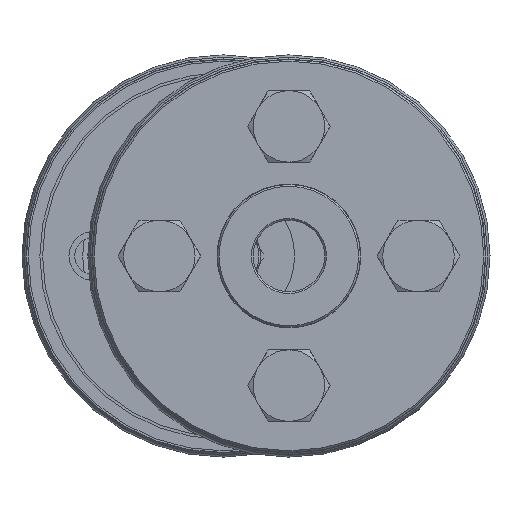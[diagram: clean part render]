
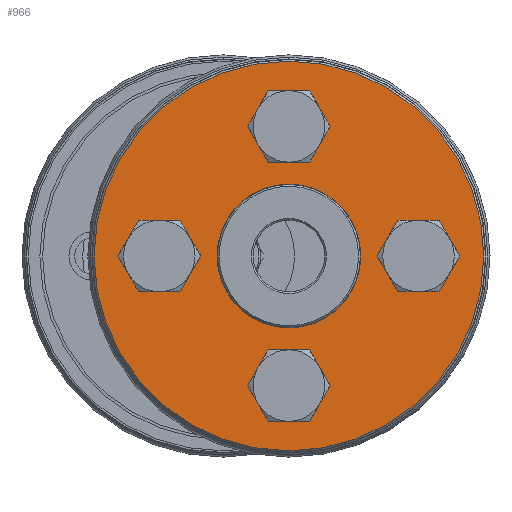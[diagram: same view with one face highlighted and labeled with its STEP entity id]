
A CAD part, left-side view. The second image highlights one B-rep face of the part: STEP entity #966.
In plain terms, the highlighted planar face has unit normal (-1, 0, 0).
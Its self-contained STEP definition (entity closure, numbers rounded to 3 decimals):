
#966 = ADVANCED_FACE( 'NONE', ( #1482, #1483, #1484, #1485, #1486, #1487 ), #1488, .F. );
#1482 = FACE_OUTER_BOUND( '', #1749, .T. );
#1483 = FACE_BOUND( '', #1750, .T. );
#1484 = FACE_BOUND( '', #1751, .T. );
#1485 = FACE_BOUND( '', #1752, .T. );
#1486 = FACE_BOUND( '', #1753, .T. );
#1487 = FACE_BOUND( '', #1754, .T. );
#1488 = PLANE( '', #1755 );
#1749 = EDGE_LOOP( '', ( #2200 ) );
#1750 = EDGE_LOOP( '', ( #2201 ) );
#1751 = EDGE_LOOP( '', ( #2202 ) );
#1752 = EDGE_LOOP( '', ( #2203 ) );
#1753 = EDGE_LOOP( '', ( #2204 ) );
#1754 = EDGE_LOOP( '', ( #2205 ) );
#1755 = AXIS2_PLACEMENT_3D( '', #2206, #2207, #2208 );
#2200 = ORIENTED_EDGE( '', *, *, #2509, .T. );
#2201 = ORIENTED_EDGE( '', *, *, #2510, .T. );
#2202 = ORIENTED_EDGE( '', *, *, #2511, .T. );
#2203 = ORIENTED_EDGE( '', *, *, #2508, .T. );
#2204 = ORIENTED_EDGE( '', *, *, #2512, .T. );
#2205 = ORIENTED_EDGE( '', *, *, #2513, .F. );
#2206 = CARTESIAN_POINT( '', ( 0., 8., 0. ) );
#2207 = DIRECTION( '', ( 1., 0., 0. ) );
#2208 = DIRECTION( '', ( 0., 1., 0. ) );
#2508 = EDGE_CURVE( 'NONE', #2823, #2823, #2824, .T. );
#2509 = EDGE_CURVE( 'NONE', #2825, #2825, #2826, .T. );
#2510 = EDGE_CURVE( 'NONE', #2827, #2827, #2828, .T. );
#2511 = EDGE_CURVE( 'NONE', #2829, #2829, #2830, .T. );
#2512 = EDGE_CURVE( 'NONE', #2831, #2831, #2832, .T. );
#2513 = EDGE_CURVE( 'NONE', #2833, #2833, #2834, .T. );
#2823 = VERTEX_POINT( '', #2993 );
#2824 = CIRCLE( '', #2994, 2.75 );
#2825 = VERTEX_POINT( '', #2995 );
#2826 = CIRCLE( '', #2996, 21.8 );
#2827 = VERTEX_POINT( '', #2997 );
#2828 = CIRCLE( '', #2998, 2.75 );
#2829 = VERTEX_POINT( '', #2999 );
#2830 = CIRCLE( '', #3000, 2.75 );
#2831 = VERTEX_POINT( '', #3001 );
#2832 = CIRCLE( '', #3002, 2.75 );
#2833 = VERTEX_POINT( '', #3003 );
#2834 = CIRCLE( '', #3004, 8. );
#2993 = CARTESIAN_POINT( '', ( 0., 0., -17.25 ) );
#2994 = AXIS2_PLACEMENT_3D( '', #3123, #3124, #3125 );
#2995 = CARTESIAN_POINT( '', ( 0., 0., -21.8 ) );
#2996 = AXIS2_PLACEMENT_3D( '', #3126, #3127, #3128 );
#2997 = CARTESIAN_POINT( '', ( 0., 0., 11.75 ) );
#2998 = AXIS2_PLACEMENT_3D( '', #3129, #3130, #3131 );
#2999 = CARTESIAN_POINT( '', ( 0., -14.5, -2.75 ) );
#3000 = AXIS2_PLACEMENT_3D( '', #3132, #3133, #3134 );
#3001 = CARTESIAN_POINT( '', ( 0., 14.5, -2.75 ) );
#3002 = AXIS2_PLACEMENT_3D( '', #3135, #3136, #3137 );
#3003 = CARTESIAN_POINT( '', ( 0., 0., 8. ) );
#3004 = AXIS2_PLACEMENT_3D( '', #3138, #3139, #3140 );
#3123 = CARTESIAN_POINT( '', ( 0., 0., -14.5 ) );
#3124 = DIRECTION( '', ( 1., 0., 0. ) );
#3125 = DIRECTION( '', ( 0., 0., -1. ) );
#3126 = CARTESIAN_POINT( '', ( 0., 0., 0. ) );
#3127 = DIRECTION( '', ( -1., 0., 0. ) );
#3128 = DIRECTION( '', ( 0., 0., -1. ) );
#3129 = CARTESIAN_POINT( '', ( 0., 0., 14.5 ) );
#3130 = DIRECTION( '', ( 1., 0., 0. ) );
#3131 = DIRECTION( '', ( 0., 0., -1. ) );
#3132 = CARTESIAN_POINT( '', ( 0., -14.5, 0. ) );
#3133 = DIRECTION( '', ( 1., 0., 0. ) );
#3134 = DIRECTION( '', ( 0., 0., -1. ) );
#3135 = CARTESIAN_POINT( '', ( 0., 14.5, 0. ) );
#3136 = DIRECTION( '', ( 1., 0., 0. ) );
#3137 = DIRECTION( '', ( 0., 0., -1. ) );
#3138 = CARTESIAN_POINT( '', ( 0., 0., 0. ) );
#3139 = DIRECTION( '', ( -1., 0., 0. ) );
#3140 = DIRECTION( '', ( 0., 0., 1. ) );
